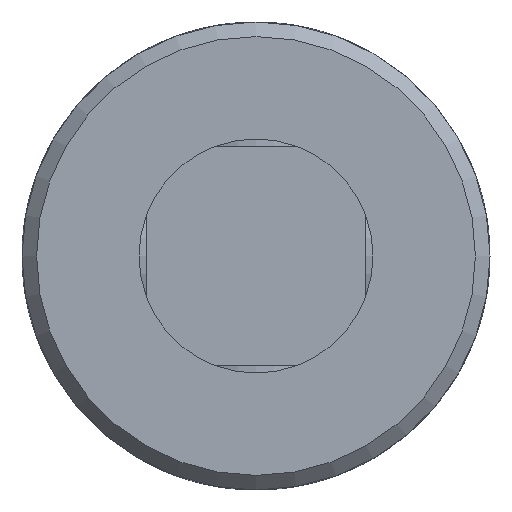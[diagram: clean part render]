
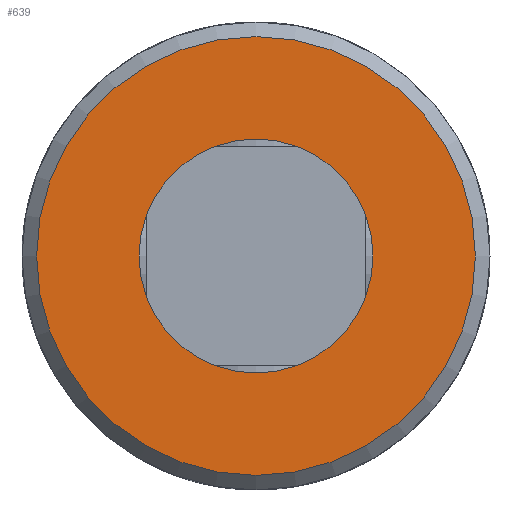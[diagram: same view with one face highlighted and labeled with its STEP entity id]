
A CAD part, front view. The second image highlights one B-rep face of the part: STEP entity #639.
In plain terms, the highlighted planar face has unit normal (0, -1, 0).
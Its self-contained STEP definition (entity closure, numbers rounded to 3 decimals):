
#123=PLANE('',#698);
#149=FACE_BOUND('',#233,.T.);
#176=FACE_OUTER_BOUND('',#232,.T.);
#232=EDGE_LOOP('',(#506));
#233=EDGE_LOOP('',(#507));
#277=CIRCLE('',#693,20.);
#279=CIRCLE('',#696,37.5);
#316=VERTEX_POINT('',#986);
#318=VERTEX_POINT('',#991);
#384=EDGE_CURVE('',#316,#316,#277,.T.);
#386=EDGE_CURVE('',#318,#318,#279,.T.);
#506=ORIENTED_EDGE('',*,*,#386,.F.);
#507=ORIENTED_EDGE('',*,*,#384,.T.);
#639=ADVANCED_FACE('',(#176,#149),#123,.F.);
#693=AXIS2_PLACEMENT_3D('',#987,#811,#812);
#696=AXIS2_PLACEMENT_3D('',#992,#817,#818);
#698=AXIS2_PLACEMENT_3D('',#1232,#825,#826);
#811=DIRECTION('center_axis',(0.,1.,0.));
#812=DIRECTION('ref_axis',(-1.,0.,0.));
#817=DIRECTION('center_axis',(0.,1.,0.));
#818=DIRECTION('ref_axis',(1.,0.,0.));
#825=DIRECTION('center_axis',(0.,1.,0.));
#826=DIRECTION('ref_axis',(0.,0.,1.));
#986=CARTESIAN_POINT('',(20.,-99.,0.));
#987=CARTESIAN_POINT('Origin',(0.,-99.,0.));
#991=CARTESIAN_POINT('',(-37.5,-99.,0.));
#992=CARTESIAN_POINT('Origin',(0.,-99.,0.));
#1232=CARTESIAN_POINT('Origin',(0.,-99.,0.));
